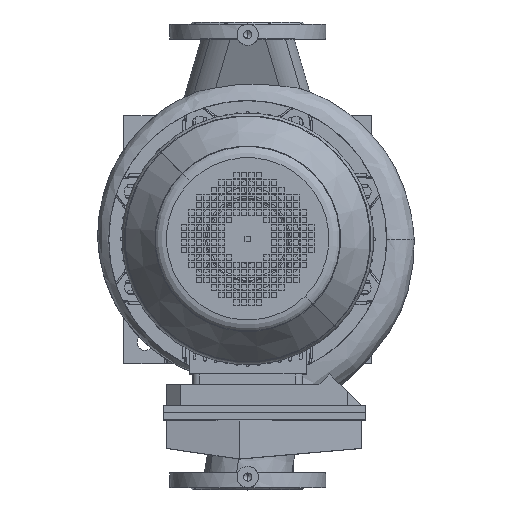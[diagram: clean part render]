
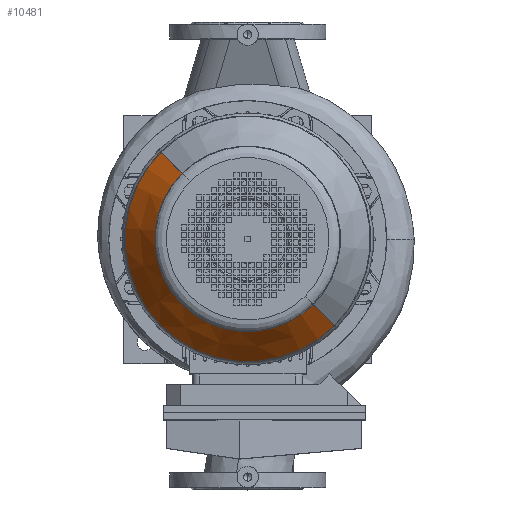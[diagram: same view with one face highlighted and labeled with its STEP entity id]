
A CAD part, top view. The second image highlights one B-rep face of the part: STEP entity #10481.
In plain terms, the highlighted conical face has half-angle 34.992 degrees and reference radius 125 mm.
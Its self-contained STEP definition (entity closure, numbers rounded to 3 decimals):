
#10481=ADVANCED_FACE('',(#24378),#24379,.T.);
#10505=EDGE_CURVE('',#24415,#24414,#24422,.T.);
#10509=EDGE_CURVE('',#24411,#24410,#24428,.T.);
#24378=FACE_OUTER_BOUND('',#43103,.T.);
#24379=CONICAL_SURFACE('',#43104,125.0,0.611);
#24410=VERTEX_POINT('',#43140);
#24411=VERTEX_POINT('',#43141);
#24414=VERTEX_POINT('',#43145);
#24415=VERTEX_POINT('',#43146);
#24422=CIRCLE('',#43155,130.972);
#24428=CIRCLE('',#43163,173.885);
#43103=EDGE_LOOP('',(#77876,#77877,#77878,#77879));
#43104=AXIS2_PLACEMENT_3D('',#77880,#77881,#77882);
#43140=CARTESIAN_POINT('',(173.885,0.,130.165));
#43141=CARTESIAN_POINT('',(-173.885,0.,130.165));
#43145=CARTESIAN_POINT('',(-130.972,0.,191.469));
#43146=CARTESIAN_POINT('',(130.972,0.0,191.469));
#43155=AXIS2_PLACEMENT_3D('',#77936,#77937,#77938);
#43163=AXIS2_PLACEMENT_3D('',#77942,#77943,#77944);
#77876=ORIENTED_EDGE('',*,*,#87724,.T.);
#77877=ORIENTED_EDGE('',*,*,#10505,.F.);
#77878=ORIENTED_EDGE('',*,*,#87725,.T.);
#77879=ORIENTED_EDGE('',*,*,#10509,.F.);
#77880=CARTESIAN_POINT('',(0.0,0.0,200.0));
#77881=DIRECTION('',(-0.0,-0.0,-1.0));
#77882=DIRECTION('',(-1.0,0.0,0.0));
#77936=CARTESIAN_POINT('',(0.0,0.0,191.469));
#77937=DIRECTION('',(0.0,0.0,1.0));
#77938=DIRECTION('',(1.0,0.0,0.0));
#77942=CARTESIAN_POINT('',(0.0,0.0,130.165));
#77943=DIRECTION('',(0.0,0.0,-1.0));
#77944=DIRECTION('',(1.0,0.,0.0));
#87724=EDGE_CURVE('',#24411,#24414,#94925,.T.);
#87725=EDGE_CURVE('',#24415,#24410,#94926,.T.);
#94925=LINE('',#105473,#105474);
#94926=LINE('',#105475,#105476);
#105473=CARTESIAN_POINT('',(-125.0,0.,200.0));
#105474=VECTOR('',#114579,1.0);
#105475=CARTESIAN_POINT('',(125.0,0.,200.0));
#105476=VECTOR('',#114580,1.0);
#114579=DIRECTION('',(0.573,0.,0.819));
#114580=DIRECTION('',(0.573,0.,-0.819));
